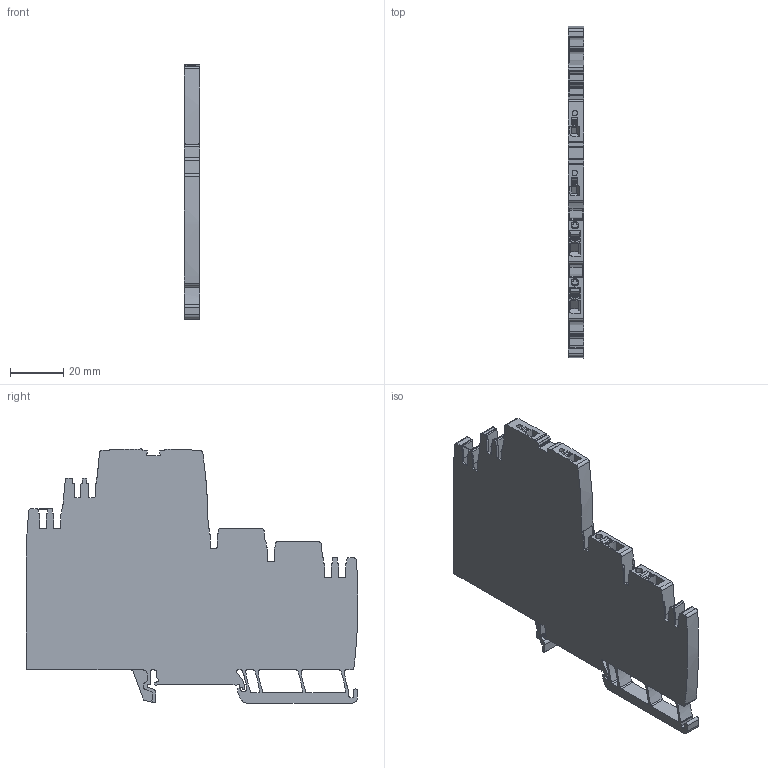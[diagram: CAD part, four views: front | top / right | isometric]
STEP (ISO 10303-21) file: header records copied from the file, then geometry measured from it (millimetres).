
FILE_DESCRIPTION(('CATIA V5R24 STEP','CAx-IF Rec.Pracs.--- Model Styling and Organization---1.2---2011-12-15'),'2;1');
FILE_NAME('\\SRVDE107\Germany\WMC\1_WMC_Input\Step_BU_PA\2122920000.stp','2017-09-05T11:36:28+00:00',('Weidmueller Interface'),('WI'),'CATIA Version 5-6 Release 2014 SP4','CATIA V5 STEP AP214','none');
FILE_SCHEMA(('AUTOMOTIVE_DESIGN { 1 0 10303 214 1 1 1 1 }'));
Length unit declared in the file: millimetre
Products named in the file (1): 2122920000
Bounding box: 6 x 125.08 x 95.73 mm (x, y, z)
Volume: 25660.6 mm3; surface area: 33349.4 mm2
Topology: 10 solids, 10 shells, 898 faces, 2759 edges, 1896 vertices
Faces by surface type: plane 503, cylinder 350, extrusion 45
Entity records: 33642 total; most frequent: CARTESIAN_POINT 8946, ORIENTED_EDGE 5518, DIRECTION 3966, EDGE_CURVE 2759, VERTEX_POINT 1896, VECTOR 1862, LINE 1817, AXIS2_PLACEMENT_3D 1332
